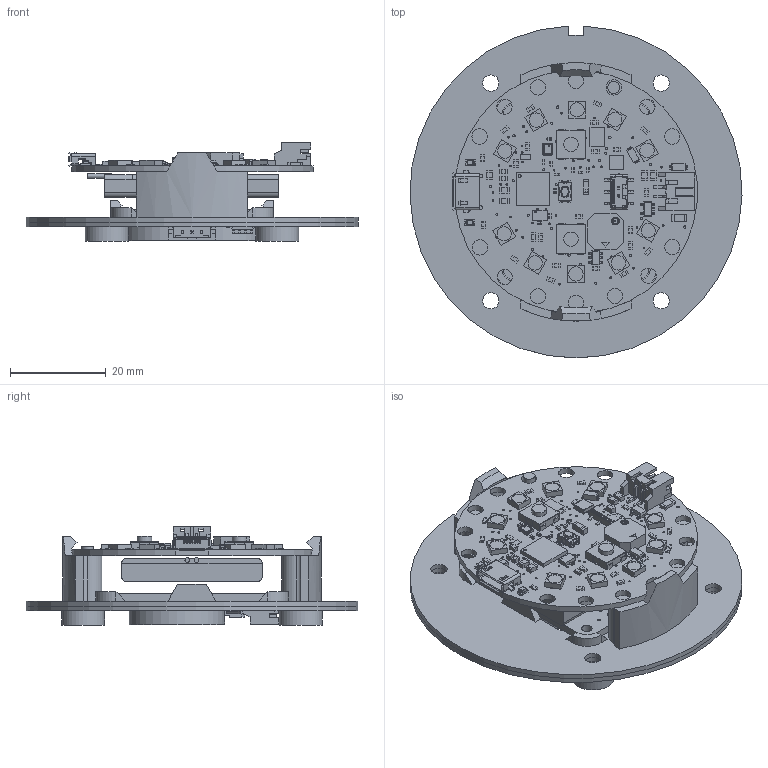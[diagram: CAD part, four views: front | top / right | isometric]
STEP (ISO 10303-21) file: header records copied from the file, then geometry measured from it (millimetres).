
FILE_DESCRIPTION(/* description */ (''),/* implementation_level */ '2;1');
FILE_NAME(/* name */ '/Users/emac5k/Dropbox/3D/Products/Pumpkin Seasons CPX/source/CP Bluefruit Pumpkin.step',/* time_stamp */ '2019-10-28T09:02:58-04:00',/* author */ (''),/* organization */ (''),/* preprocessor_version */ 'ST-DEVELOPER v18',/* originating_system */ 'Autodesk Translation Framework v8.6.0.1094',/* authorisation */ '');
FILE_SCHEMA (('AUTOMOTIVE_DESIGN { 1 0 10303 214 3 1 1 }'));
Length unit declared in the file: millimetre
Products named in the file (42): Bluefruit CPX Pumpkin; Adafruit Circuit Playground Bluefruit v5; PCB Component; Board; 10uF; 1M; RED; KMR2; MicroB USB; 3-6VDC; MBR120; EG1390; EVQQ; WS2812B3535; LIS3DH; ALS-PT19-315C; THERM; AP2112K-3.3; 7.5mm SPK; 6V+ 500mA; MIC_PDM; PAM8301; NRF52840_SMALLCENTER; 0.1uF; 32MHz; 10uF_1; 0.1uF_1; ANT_2450AT18B100; GD25Q16; STEMMA Speaker rev A v4; PCB Component (1); Board (1); PAM8302AASCR; 100; 10uF_2; 10K trim; CON_MOLEX_2P; SPEAKER_OVAL8OHM; JST PH 3; mount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
Assembly tree (90 placements, depth 4):
  Bluefruit CPX Pumpkin
    Adafruit Circuit Playground Bluefruit v5
      PCB Component
        Board
        10uF  x2
        1M  x21
        RED  x2
        KMR2
        MicroB USB
        3-6VDC
        MBR120  x2
        EG1390
        EVQQ  x2
        WS2812B3535  x10
        LIS3DH
        ALS-PT19-315C
        THERM
        AP2112K-3.3
        7.5mm SPK
        6V+ 500mA
        MIC_PDM
        PAM8301
        NRF52840_SMALLCENTER
        0.1uF  x10
        32MHz
        10uF_1  x3
        0.1uF_1  x3
        ANT_2450AT18B100
        GD25Q16
    STEMMA Speaker rev A v4
      PCB Component (1)
        Board (1)
        PAM8302AASCR
        100  x4
        10uF_2
        10K trim
        CON_MOLEX_2P
        SPEAKER_OVAL8OHM
        JST PH 3
    mount
    500mAh battery v3
    bottom
Bounding box: 69.38 x 69.37 x 20.54 mm (x, y, z)
Volume: 20046.4 mm3; surface area: 32256.5 mm2
Topology: 161 solids, 161 shells, 3901 faces, 10279 edges, 6573 vertices
Faces by surface type: plane 2866, cylinder 857, sphere 100, torus 40, bspline 22, cone 16
Full cylindrical faces by diameter (mm): 0.2 x1, 0.3 x15, 0.35 x2, 0.394 x84, 0.4 x3, 0.5 x26, 0.6 x1, 0.635 x1, 0.7 x2, 0.8 x4, 1 x6, 1.2 x1, 1.5 x1, 1.6 x2, 2.2 x4, 2.5 x1, 3 x12, 3.2 x17, 3.4 x8, 6 x4, 9 x4, 13.2 x2, 15.2 x2
Entity records: 94448 total; most frequent: CARTESIAN_POINT 17493, ORIENTED_EDGE 15596, DIRECTION 15121, EDGE_CURVE 7798, LINE 6299, VECTOR 6299, VERTEX_POINT 5057, AXIS2_PLACEMENT_3D 4411
